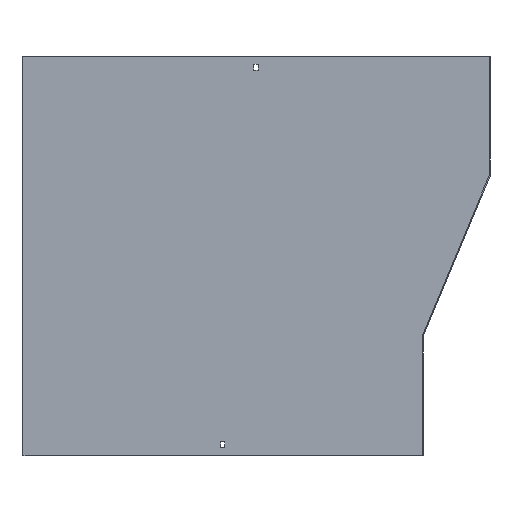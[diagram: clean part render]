
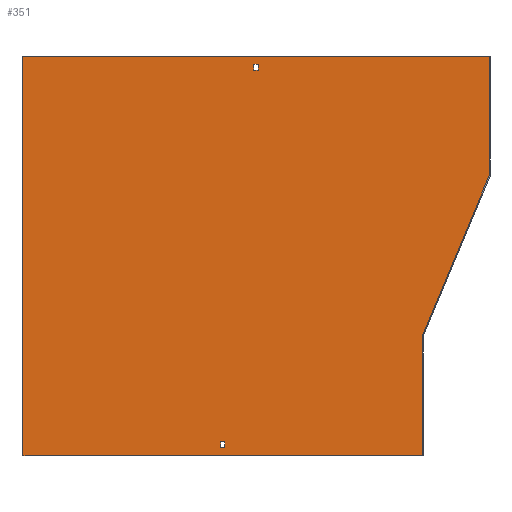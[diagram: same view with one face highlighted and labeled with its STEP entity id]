
A CAD part, front view. The second image highlights one B-rep face of the part: STEP entity #351.
In plain terms, the highlighted planar face has unit normal (0, -1, 0).
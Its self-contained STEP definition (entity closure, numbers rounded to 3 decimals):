
#4 = ORIENTED_EDGE ( 'NONE', *, *, #576, .F. ) ;
#6 = VECTOR ( 'NONE', #515, 1000. ) ;
#10 = ORIENTED_EDGE ( 'NONE', *, *, #600, .F. ) ;
#11 = ORIENTED_EDGE ( 'NONE', *, *, #369, .F. ) ;
#13 = EDGE_LOOP ( 'NONE', ( #113, #675, #14, #606, #53, #4 ) ) ;
#14 = ORIENTED_EDGE ( 'NONE', *, *, #146, .F. ) ;
#26 = DIRECTION ( 'NONE',  ( 0., 0., -1. ) ) ;
#30 = CARTESIAN_POINT ( 'NONE',  ( 0., -1.5, -588. ) ) ;
#31 = CARTESIAN_POINT ( 'NONE',  ( -350., -1.5, 0. ) ) ;
#33 = DIRECTION ( 'NONE',  ( 1., 0., 0. ) ) ;
#36 = EDGE_CURVE ( 'NONE', #565, #341, #147, .T. ) ;
#50 = VERTEX_POINT ( 'NONE', #470 ) ;
#51 = DIRECTION ( 'NONE',  ( -1., 0., 0. ) ) ;
#53 = ORIENTED_EDGE ( 'NONE', *, *, #292, .F. ) ;
#76 = DIRECTION ( 'NONE',  ( 0., -1., 0. ) ) ;
#80 = LINE ( 'NONE', #30, #461 ) ;
#103 = VERTEX_POINT ( 'NONE', #408 ) ;
#110 = VECTOR ( 'NONE', #551, 1000. ) ;
#111 = EDGE_CURVE ( 'NONE', #722, #50, #192, .T. ) ;
#113 = ORIENTED_EDGE ( 'NONE', *, *, #195, .F. ) ;
#115 = VERTEX_POINT ( 'NONE', #140 ) ;
#125 = VECTOR ( 'NONE', #638, 1000. ) ;
#130 = CARTESIAN_POINT ( 'NONE',  ( 3.25, -1.5, -12. ) ) ;
#140 = CARTESIAN_POINT ( 'NONE',  ( 3.25, -1.5, -21. ) ) ;
#146 = EDGE_CURVE ( 'NONE', #609, #565, #586, .T. ) ;
#147 = LINE ( 'NONE', #31, #160 ) ;
#150 = DIRECTION ( 'NONE',  ( 1., 0., 0. ) ) ;
#160 = VECTOR ( 'NONE', #526, 1000. ) ;
#161 = DIRECTION ( 'NONE',  ( 1., 0., 0. ) ) ;
#162 = VERTEX_POINT ( 'NONE', #164 ) ;
#164 = CARTESIAN_POINT ( 'NONE',  ( 350., -1.5, -179.7 ) ) ;
#166 = EDGE_CURVE ( 'NONE', #50, #115, #484, .T. ) ;
#168 = ORIENTED_EDGE ( 'NONE', *, *, #111, .F. ) ;
#181 = CARTESIAN_POINT ( 'NONE',  ( 0., -1.5, 0. ) ) ;
#182 = VERTEX_POINT ( 'NONE', #599 ) ;
#192 = LINE ( 'NONE', #637, #229 ) ;
#193 = VECTOR ( 'NONE', #150, 1000. ) ;
#195 = EDGE_CURVE ( 'NONE', #341, #182, #432, .T. ) ;
#209 = LINE ( 'NONE', #328, #459 ) ;
#229 = VECTOR ( 'NONE', #415, 1000. ) ;
#237 = PLANE ( 'NONE',  #550 ) ;
#243 = FACE_BOUND ( 'NONE', #450, .T. ) ;
#256 = FACE_OUTER_BOUND ( 'NONE', #13, .T. ) ;
#278 = LINE ( 'NONE', #335, #110 ) ;
#284 = VECTOR ( 'NONE', #505, 1000. ) ;
#292 = EDGE_CURVE ( 'NONE', #162, #392, #583, .T. ) ;
#295 = LINE ( 'NONE', #464, #6 ) ;
#296 = CARTESIAN_POINT ( 'NONE',  ( 250.115, -1.5, -419.423 ) ) ;
#310 = CARTESIAN_POINT ( 'NONE',  ( -46.75, -1.5, -579. ) ) ;
#314 = DIRECTION ( 'NONE',  ( 0., 0., -1. ) ) ;
#323 = EDGE_CURVE ( 'NONE', #103, #559, #80, .T. ) ;
#327 = DIRECTION ( 'NONE',  ( -1., 0., 0. ) ) ;
#328 = CARTESIAN_POINT ( 'NONE',  ( 0., -1.5, -12. ) ) ;
#332 = LINE ( 'NONE', #674, #284 ) ;
#335 = CARTESIAN_POINT ( 'NONE',  ( 3.25, -1.5, 0. ) ) ;
#339 = VERTEX_POINT ( 'NONE', #363 ) ;
#341 = VERTEX_POINT ( 'NONE', #580 ) ;
#345 = VERTEX_POINT ( 'NONE', #310 ) ;
#351 = ADVANCED_FACE ( 'NONE', ( #243, #524, #256 ), #237, .T. ) ;
#360 = DIRECTION ( 'NONE',  ( 0., 0., 1. ) ) ;
#363 = CARTESIAN_POINT ( 'NONE',  ( -53.25, -1.5, -579. ) ) ;
#369 = EDGE_CURVE ( 'NONE', #559, #345, #475, .T. ) ;
#376 = CARTESIAN_POINT ( 'NONE',  ( -351.5, -1.5, -600. ) ) ;
#377 = VERTEX_POINT ( 'NONE', #130 ) ;
#386 = CARTESIAN_POINT ( 'NONE',  ( 351.5, -1.5, 0. ) ) ;
#387 = ORIENTED_EDGE ( 'NONE', *, *, #323, .F. ) ;
#392 = VERTEX_POINT ( 'NONE', #691 ) ;
#407 = CARTESIAN_POINT ( 'NONE',  ( -46.75, -1.5, 0. ) ) ;
#408 = CARTESIAN_POINT ( 'NONE',  ( -53.25, -1.5, -588. ) ) ;
#414 = VECTOR ( 'NONE', #495, 1000. ) ;
#415 = DIRECTION ( 'NONE',  ( 0., 0., -1. ) ) ;
#416 = CARTESIAN_POINT ( 'NONE',  ( -3.25, -1.5, -12. ) ) ;
#432 = LINE ( 'NONE', #386, #193 ) ;
#435 = VECTOR ( 'NONE', #26, 1000. ) ;
#441 = ORIENTED_EDGE ( 'NONE', *, *, #527, .F. ) ;
#446 = CARTESIAN_POINT ( 'NONE',  ( 250., -1.5, -600. ) ) ;
#450 = EDGE_LOOP ( 'NONE', ( #572, #441, #11, #387 ) ) ;
#456 = EDGE_LOOP ( 'NONE', ( #168, #678, #10, #627 ) ) ;
#459 = VECTOR ( 'NONE', #51, 1000. ) ;
#461 = VECTOR ( 'NONE', #33, 1000. ) ;
#464 = CARTESIAN_POINT ( 'NONE',  ( -53.25, -1.5, 0. ) ) ;
#470 = CARTESIAN_POINT ( 'NONE',  ( -3.25, -1.5, -21. ) ) ;
#475 = LINE ( 'NONE', #407, #645 ) ;
#484 = LINE ( 'NONE', #540, #696 ) ;
#495 = DIRECTION ( 'NONE',  ( 0., 0., -1. ) ) ;
#505 = DIRECTION ( 'NONE',  ( -1., 0., 0. ) ) ;
#515 = DIRECTION ( 'NONE',  ( 0., 0., -1. ) ) ;
#519 = EDGE_CURVE ( 'NONE', #377, #722, #209, .T. ) ;
#522 = LINE ( 'NONE', #629, #435 ) ;
#524 = FACE_BOUND ( 'NONE', #456, .T. ) ;
#526 = DIRECTION ( 'NONE',  ( 0., 0., 1. ) ) ;
#527 = EDGE_CURVE ( 'NONE', #345, #339, #332, .T. ) ;
#540 = CARTESIAN_POINT ( 'NONE',  ( 0., -1.5, -21. ) ) ;
#550 = AXIS2_PLACEMENT_3D ( 'NONE', #181, #76, #314 ) ;
#551 = DIRECTION ( 'NONE',  ( 0., 0., 1. ) ) ;
#559 = VERTEX_POINT ( 'NONE', #619 ) ;
#565 = VERTEX_POINT ( 'NONE', #611 ) ;
#572 = ORIENTED_EDGE ( 'NONE', *, *, #682, .F. ) ;
#576 = EDGE_CURVE ( 'NONE', #182, #162, #616, .T. ) ;
#580 = CARTESIAN_POINT ( 'NONE',  ( -350., -1.5, 0. ) ) ;
#583 = LINE ( 'NONE', #296, #125 ) ;
#586 = LINE ( 'NONE', #376, #680 ) ;
#599 = CARTESIAN_POINT ( 'NONE',  ( 350., -1.5, 0. ) ) ;
#600 = EDGE_CURVE ( 'NONE', #115, #377, #278, .T. ) ;
#606 = ORIENTED_EDGE ( 'NONE', *, *, #625, .F. ) ;
#609 = VERTEX_POINT ( 'NONE', #446 ) ;
#611 = CARTESIAN_POINT ( 'NONE',  ( -350., -1.5, -600. ) ) ;
#616 = LINE ( 'NONE', #665, #414 ) ;
#619 = CARTESIAN_POINT ( 'NONE',  ( -46.75, -1.5, -588. ) ) ;
#625 = EDGE_CURVE ( 'NONE', #392, #609, #522, .T. ) ;
#627 = ORIENTED_EDGE ( 'NONE', *, *, #166, .F. ) ;
#629 = CARTESIAN_POINT ( 'NONE',  ( 250., -1.5, -600. ) ) ;
#637 = CARTESIAN_POINT ( 'NONE',  ( -3.25, -1.5, 0. ) ) ;
#638 = DIRECTION ( 'NONE',  ( -0.385, 0., -0.923 ) ) ;
#645 = VECTOR ( 'NONE', #360, 1000. ) ;
#665 = CARTESIAN_POINT ( 'NONE',  ( 350., -1.5, -180. ) ) ;
#674 = CARTESIAN_POINT ( 'NONE',  ( 0., -1.5, -579. ) ) ;
#675 = ORIENTED_EDGE ( 'NONE', *, *, #36, .F. ) ;
#678 = ORIENTED_EDGE ( 'NONE', *, *, #519, .F. ) ;
#680 = VECTOR ( 'NONE', #327, 1000. ) ;
#682 = EDGE_CURVE ( 'NONE', #339, #103, #295, .T. ) ;
#691 = CARTESIAN_POINT ( 'NONE',  ( 250., -1.5, -419.7 ) ) ;
#696 = VECTOR ( 'NONE', #161, 1000. ) ;
#722 = VERTEX_POINT ( 'NONE', #416 ) ;
